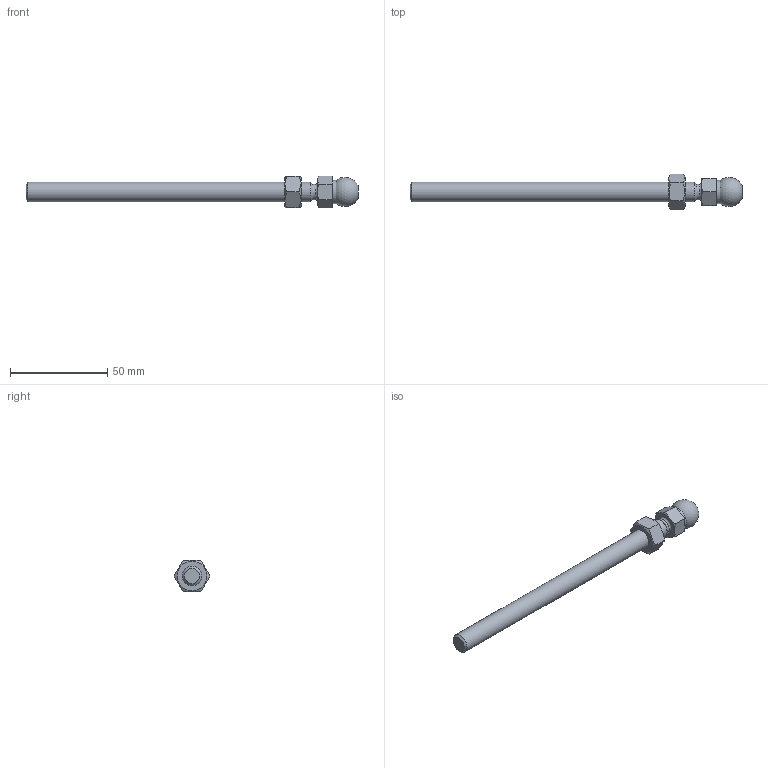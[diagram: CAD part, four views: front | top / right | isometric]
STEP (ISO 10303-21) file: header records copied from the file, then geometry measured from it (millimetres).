
FILE_DESCRIPTION(('STEP AP203'), '1');
FILE_NAME('A00020.110150', '', ('UNSPECIFIED'), ('UNSPECIFIED'), 'C3D Converter', 'C3D Toolkit', '');
FILE_SCHEMA(('CONFIG_CONTROL_DESIGN'));
Length unit declared in the file: millimetre
Products named in the file (2): A00020.110150
Assembly tree (1 placements, depth 2):
  A00020.110150
    (unnamed)
Bounding box: 170.8 x 18.48 x 16.17 mm (x, y, z)
Volume: 16113.1 mm3; surface area: 6881.2 mm2
Topology: 2 solids, 2 shells, 36 faces, 75 edges, 45 vertices
Faces by surface type: plane 18, cone 12, cylinder 4, sphere 1, torus 1
Full cylindrical faces by diameter (mm): 8 x1, 8.376 x1, 10 x1, 12 x1
Entity records: 1785 total; most frequent: CARTESIAN_POINT 1002, DIRECTION 136, ORIENTED_EDGE 126, EDGE_CURVE 63, AXIS2_PLACEMENT_3D 59, EDGE_LOOP 52, VERTEX_POINT 45, ADVANCED_FACE 36
